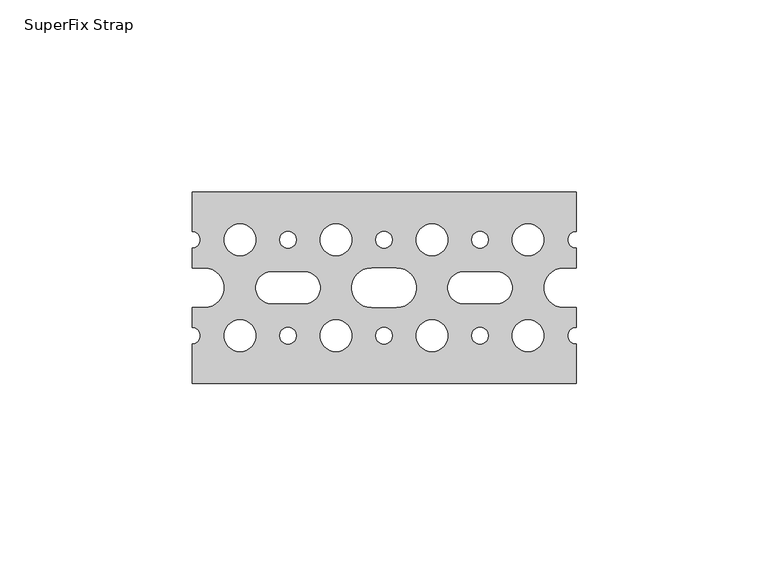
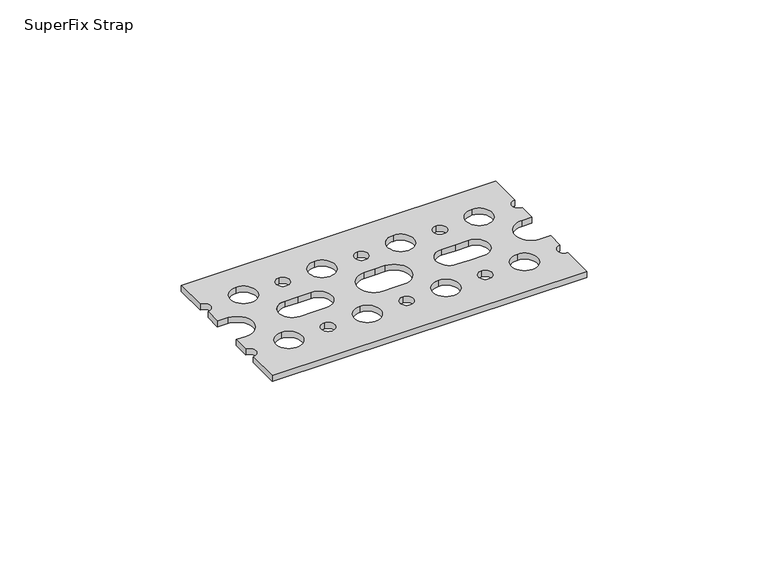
"""IFC4 building model written with IfcOpenShell, lengths in millimetres: valve geometry, Superfix Strap : SuperFix Strap."""

from ifc_helpers import new_model, si_unit, point, frame_2d, origin, origin_with_axes, place, context, project, spatial, polyline, circle_curve, trimmed, segment, composite_curve, outline, extrude, source, transform, mapped, element, save


def superfix_strap_f0c71177(model_context):
    return source(origin(), model_context, "Body", "SweptSolid", [
        extrude(outline(composite_curve([segment(polyline([(50.0, -25.0), (-50.0, -25.0), (-50.0, -14.65)]), True, "CONTINUOUS"), segment(trimmed(circle_curve(frame_2d((-50.0, -12.5)), 2.15), [point((-50.0, -14.65))], [point((-50.0, -10.35))], True, "CARTESIAN"), True, "CONTINUOUS"), segment(polyline([(-50.0, -10.35), (-50.0, -5.15), (-46.75, -5.15)]), True, "CONTINUOUS"), segment(trimmed(circle_curve(frame_2d((-46.75, 0.0)), 5.15), [point((-46.75, -5.15))], [point((-46.75, 5.15))], True, "CARTESIAN"), True, "CONTINUOUS"), segment(polyline([(-46.75, 5.15), (-50.0, 5.15), (-50.0, 10.35)]), True, "CONTINUOUS"), segment(trimmed(circle_curve(frame_2d((-50.0, 12.5)), 2.15), [point((-50.0, 10.35))], [point((-50.0, 14.65))], True, "CARTESIAN"), True, "CONTINUOUS"), segment(polyline([(-50.0, 14.65), (-50.0, 25.0), (50.0, 25.0), (50.0, 14.65)]), True, "CONTINUOUS"), segment(trimmed(circle_curve(frame_2d((50.0, 12.5)), 2.15), [point((50.0, 14.65))], [point((50.0, 10.35))], True, "CARTESIAN"), True, "CONTINUOUS"), segment(polyline([(50.0, 10.35), (50.0, 5.15), (46.75, 5.15)]), True, "CONTINUOUS"), segment(trimmed(circle_curve(frame_2d((46.75, 0.0)), 5.15), [point((46.75, 5.15))], [point((46.75, -5.15))], True, "CARTESIAN"), True, "CONTINUOUS"), segment(polyline([(46.75, -5.15), (50.0, -5.15), (50.0, -10.35)]), True, "CONTINUOUS"), segment(trimmed(circle_curve(frame_2d((50.0, -12.5)), 2.15), [point((50.0, -10.35))], [point((50.0, -14.65))], True, "CARTESIAN"), True, "CONTINUOUS"), segment(polyline([(50.0, -14.65), (50.0, -25.0)]), True, "CONTINUOUS")], self_intersect=False), holes=[composite_curve([segment(polyline([(25.0, 4.15), (20.75, 4.15)]), True, "CONTINUOUS"), segment(trimmed(circle_curve(frame_2d((20.75, 0.0)), 4.15), [point((20.75, 4.15))], [point((20.75, -4.15))], True, "CARTESIAN"), True, "CONTINUOUS"), segment(polyline([(20.75, -4.15), (25.0, -4.15), (29.25, -4.15)]), True, "CONTINUOUS"), segment(trimmed(circle_curve(frame_2d((29.25, 0.0)), 4.15), [point((29.25, -4.15))], [point((29.25, 4.15))], True, "CARTESIAN"), True, "CONTINUOUS"), segment(polyline([(29.25, 4.15), (25.0, 4.15)]), True, "CONTINUOUS")], self_intersect=False), composite_curve([segment(polyline([(0.0, 5.15), (-3.25, 5.15)]), True, "CONTINUOUS"), segment(trimmed(circle_curve(frame_2d((-3.25, 0.0)), 5.15), [point((-3.25, 5.15))], [point((-3.25, -5.15))], True, "CARTESIAN"), True, "CONTINUOUS"), segment(polyline([(-3.25, -5.15), (0.0, -5.15), (3.25, -5.15)]), True, "CONTINUOUS"), segment(trimmed(circle_curve(frame_2d((3.25, 0.0)), 5.15), [point((3.25, -5.15))], [point((3.25, 5.15))], True, "CARTESIAN"), True, "CONTINUOUS"), segment(polyline([(3.25, 5.15), (0.0, 5.15)]), True, "CONTINUOUS")], self_intersect=False), composite_curve([segment(trimmed(circle_curve(frame_2d((0.0, 12.5)), 2.15), [point((0.0, 14.65))], [point((0.0, 10.35))], True, "CARTESIAN"), True, "CONTINUOUS"), segment(trimmed(circle_curve(frame_2d((0.0, 12.5)), 2.15), [point((0.0, 10.35))], [point((0.0, 14.65))], True, "CARTESIAN"), True, "CONTINUOUS")], self_intersect=False), composite_curve([segment(trimmed(circle_curve(frame_2d((25.0, 12.5)), 2.15), [point((25.0, 14.65))], [point((25.0, 10.35))], True, "CARTESIAN"), True, "CONTINUOUS"), segment(trimmed(circle_curve(frame_2d((25.0, 12.5)), 2.15), [point((25.0, 10.35))], [point((25.0, 14.65))], True, "CARTESIAN"), True, "CONTINUOUS")], self_intersect=False), composite_curve([segment(trimmed(circle_curve(frame_2d((25.0, -12.5)), 2.15), [point((25.0, -10.35))], [point((25.0, -14.65))], True, "CARTESIAN"), True, "CONTINUOUS"), segment(trimmed(circle_curve(frame_2d((25.0, -12.5)), 2.15), [point((25.0, -14.65))], [point((25.0, -10.35))], True, "CARTESIAN"), True, "CONTINUOUS")], self_intersect=False), composite_curve([segment(trimmed(circle_curve(frame_2d((0.0, -12.5)), 2.15), [point((0.0, -10.35))], [point((0.0, -14.65))], True, "CARTESIAN"), True, "CONTINUOUS"), segment(trimmed(circle_curve(frame_2d((0.0, -12.5)), 2.15), [point((0.0, -14.65))], [point((0.0, -10.35))], True, "CARTESIAN"), True, "CONTINUOUS")], self_intersect=False), composite_curve([segment(trimmed(circle_curve(frame_2d((12.5, 12.5)), 4.15), [point((12.5, 16.65))], [point((12.5, 8.35))], True, "CARTESIAN"), True, "CONTINUOUS"), segment(trimmed(circle_curve(frame_2d((12.5, 12.5)), 4.15), [point((12.5, 8.35))], [point((12.5, 16.65))], True, "CARTESIAN"), True, "CONTINUOUS")], self_intersect=False), composite_curve([segment(trimmed(circle_curve(frame_2d((12.5, -12.5)), 4.15), [point((12.5, -8.35))], [point((12.5, -16.65))], True, "CARTESIAN"), True, "CONTINUOUS"), segment(trimmed(circle_curve(frame_2d((12.5, -12.5)), 4.15), [point((12.5, -16.65))], [point((12.5, -8.35))], True, "CARTESIAN"), True, "CONTINUOUS")], self_intersect=False), composite_curve([segment(trimmed(circle_curve(frame_2d((37.5, 12.5)), 4.15), [point((37.5, 16.65))], [point((37.5, 8.35))], True, "CARTESIAN"), True, "CONTINUOUS"), segment(trimmed(circle_curve(frame_2d((37.5, 12.5)), 4.15), [point((37.5, 8.35))], [point((37.5, 16.65))], True, "CARTESIAN"), True, "CONTINUOUS")], self_intersect=False), composite_curve([segment(trimmed(circle_curve(frame_2d((37.5, -12.5)), 4.15), [point((37.5, -8.35))], [point((37.5, -16.65))], True, "CARTESIAN"), True, "CONTINUOUS"), segment(trimmed(circle_curve(frame_2d((37.5, -12.5)), 4.15), [point((37.5, -16.65))], [point((37.5, -8.35))], True, "CARTESIAN"), True, "CONTINUOUS")], self_intersect=False), composite_curve([segment(trimmed(circle_curve(frame_2d((-20.75, 0.0)), 4.15), [point((-20.75, -4.15))], [point((-20.75, 4.15))], True, "CARTESIAN"), True, "CONTINUOUS"), segment(polyline([(-20.75, 4.15), (-25.0, 4.15), (-29.25, 4.15)]), True, "CONTINUOUS"), segment(trimmed(circle_curve(frame_2d((-29.25, 0.0)), 4.15), [point((-29.25, 4.15))], [point((-29.25, -4.15))], True, "CARTESIAN"), True, "CONTINUOUS"), segment(polyline([(-29.25, -4.15), (-25.0, -4.15), (-20.75, -4.15)]), True, "CONTINUOUS")], self_intersect=False), composite_curve([segment(trimmed(circle_curve(frame_2d((-25.0, 12.5)), 2.15), [point((-25.0, 14.65))], [point((-25.0, 10.35))], True, "CARTESIAN"), True, "CONTINUOUS"), segment(trimmed(circle_curve(frame_2d((-25.0, 12.5)), 2.15), [point((-25.0, 10.35))], [point((-25.0, 14.65))], True, "CARTESIAN"), True, "CONTINUOUS")], self_intersect=False), composite_curve([segment(trimmed(circle_curve(frame_2d((-25.0, -12.5)), 2.15), [point((-25.0, -10.35))], [point((-25.0, -14.65))], True, "CARTESIAN"), True, "CONTINUOUS"), segment(trimmed(circle_curve(frame_2d((-25.0, -12.5)), 2.15), [point((-25.0, -14.65))], [point((-25.0, -10.35))], True, "CARTESIAN"), True, "CONTINUOUS")], self_intersect=False), composite_curve([segment(trimmed(circle_curve(frame_2d((-12.5, 12.5)), 4.15), [point((-12.5, 16.65))], [point((-12.5, 8.35))], True, "CARTESIAN"), True, "CONTINUOUS"), segment(trimmed(circle_curve(frame_2d((-12.5, 12.5)), 4.15), [point((-12.5, 8.35))], [point((-12.5, 16.65))], True, "CARTESIAN"), True, "CONTINUOUS")], self_intersect=False), composite_curve([segment(trimmed(circle_curve(frame_2d((-12.5, -12.5)), 4.15), [point((-12.5, -8.35))], [point((-12.5, -16.65))], True, "CARTESIAN"), True, "CONTINUOUS"), segment(trimmed(circle_curve(frame_2d((-12.5, -12.5)), 4.15), [point((-12.5, -16.65))], [point((-12.5, -8.35))], True, "CARTESIAN"), True, "CONTINUOUS")], self_intersect=False), composite_curve([segment(trimmed(circle_curve(frame_2d((-37.5, 12.5)), 4.15), [point((-37.5, 16.65))], [point((-37.5, 8.35))], True, "CARTESIAN"), True, "CONTINUOUS"), segment(trimmed(circle_curve(frame_2d((-37.5, 12.5)), 4.15), [point((-37.5, 8.35))], [point((-37.5, 16.65))], True, "CARTESIAN"), True, "CONTINUOUS")], self_intersect=False), composite_curve([segment(trimmed(circle_curve(frame_2d((-37.5, -12.5)), 4.15), [point((-37.5, -8.35))], [point((-37.5, -16.65))], True, "CARTESIAN"), True, "CONTINUOUS"), segment(trimmed(circle_curve(frame_2d((-37.5, -12.5)), 4.15), [point((-37.5, -16.65))], [point((-37.5, -8.35))], True, "CARTESIAN"), True, "CONTINUOUS")], self_intersect=False)]), origin_with_axes(), (0.0, 0.0, 1.0), 2.0),
    ])


if __name__ == "__main__":
    model = new_model("IFC4")
    model_context = context("Model", 3, world=origin())
    ifc_project = project(units=[si_unit("LENGTHUNIT", "METRE", prefix="MILLI")], contexts=[model_context])
    site = spatial("IfcSite", under=ifc_project)
    building = spatial("IfcBuilding", under=site)
    placement = place(None, origin())
    superfix_strap_shape = superfix_strap_f0c71177(model_context)
    element("IfcValve", 1, ObjectType="Superfix Strap : SuperFix Strap", at=placement, inside=building, context=model_context, shape_type="MappedRepresentation", body=[
        mapped(superfix_strap_shape, transform((0.0, 0.0, 0.0), x_axis=(1.0, 0.0, 0.0), y_axis=(0.0, 1.0, 0.0), z_axis=(0.0, 0.0, 1.0))),
    ])
    save(model, "model.ifc")
